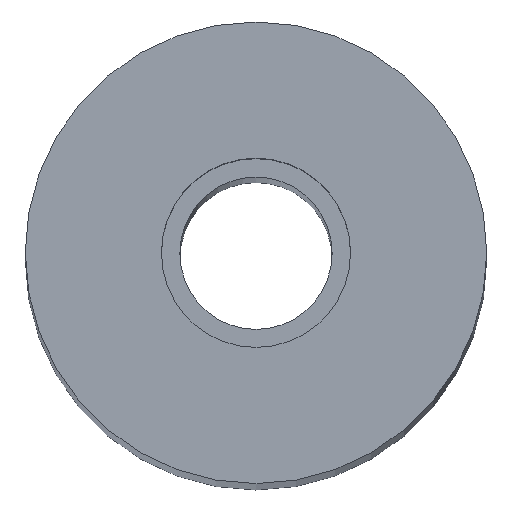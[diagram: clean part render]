
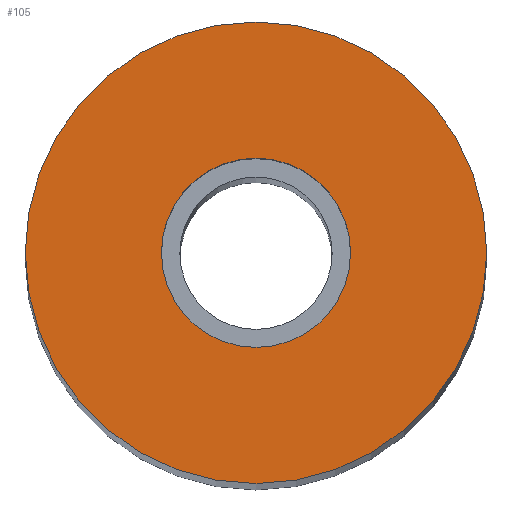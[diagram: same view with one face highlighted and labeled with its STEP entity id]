
A CAD part, top view. The second image highlights one B-rep face of the part: STEP entity #105.
In plain terms, the highlighted planar face has unit normal (0, 0, 1).
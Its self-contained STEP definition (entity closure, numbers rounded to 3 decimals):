
#21 = EDGE_CURVE('',#22,#22,#24,.T.);
#22 = VERTEX_POINT('',#23);
#23 = CARTESIAN_POINT('',(5.,0.,80.));
#24 = SURFACE_CURVE('',#25,(#30,#42),.PCURVE_S1.);
#25 = CIRCLE('',#26,5.);
#26 = AXIS2_PLACEMENT_3D('',#27,#28,#29);
#27 = CARTESIAN_POINT('',(0.,0.,80.));
#28 = DIRECTION('',(0.,0.,1.));
#29 = DIRECTION('',(1.,0.,-0.));
#30 = PCURVE('',#31,#36);
#31 = CYLINDRICAL_SURFACE('',#32,5.);
#32 = AXIS2_PLACEMENT_3D('',#33,#34,#35);
#33 = CARTESIAN_POINT('',(0.,0.,0.));
#34 = DIRECTION('',(0.,0.,1.));
#35 = DIRECTION('',(1.,0.,-0.));
#36 = DEFINITIONAL_REPRESENTATION('',(#37),#41);
#37 = LINE('',#38,#39);
#38 = CARTESIAN_POINT('',(0.,80.));
#39 = VECTOR('',#40,1.);
#40 = DIRECTION('',(1.,0.));
#41 = ( GEOMETRIC_REPRESENTATION_CONTEXT(2) 
PARAMETRIC_REPRESENTATION_CONTEXT() REPRESENTATION_CONTEXT('2D SPACE',''
  ) );
#42 = PCURVE('',#43,#48);
#43 = PLANE('',#44);
#44 = AXIS2_PLACEMENT_3D('',#45,#46,#47);
#45 = CARTESIAN_POINT('',(0.,0.,80.));
#46 = DIRECTION('',(0.,0.,1.));
#47 = DIRECTION('',(1.,0.,-0.));
#48 = DEFINITIONAL_REPRESENTATION('',(#49),#53);
#49 = CIRCLE('',#50,5.);
#50 = AXIS2_PLACEMENT_2D('',#51,#52);
#51 = CARTESIAN_POINT('',(0.,0.));
#52 = DIRECTION('',(1.,0.));
#53 = ( GEOMETRIC_REPRESENTATION_CONTEXT(2) 
PARAMETRIC_REPRESENTATION_CONTEXT() REPRESENTATION_CONTEXT('2D SPACE',''
  ) );
#105 = ADVANCED_FACE('',(#106,#109),#43,.T.);
#106 = FACE_BOUND('',#107,.T.);
#107 = EDGE_LOOP('',(#108));
#108 = ORIENTED_EDGE('',*,*,#21,.T.);
#109 = FACE_BOUND('',#110,.T.);
#110 = EDGE_LOOP('',(#111));
#111 = ORIENTED_EDGE('',*,*,#112,.F.);
#112 = EDGE_CURVE('',#113,#113,#115,.T.);
#113 = VERTEX_POINT('',#114);
#114 = CARTESIAN_POINT('',(2.05,0.,80.));
#115 = SURFACE_CURVE('',#116,(#121,#128),.PCURVE_S1.);
#116 = CIRCLE('',#117,2.05);
#117 = AXIS2_PLACEMENT_3D('',#118,#119,#120);
#118 = CARTESIAN_POINT('',(0.,0.,80.));
#119 = DIRECTION('',(0.,0.,1.));
#120 = DIRECTION('',(1.,0.,-0.));
#121 = PCURVE('',#43,#122);
#122 = DEFINITIONAL_REPRESENTATION('',(#123),#127);
#123 = CIRCLE('',#124,2.05);
#124 = AXIS2_PLACEMENT_2D('',#125,#126);
#125 = CARTESIAN_POINT('',(0.,0.));
#126 = DIRECTION('',(1.,0.));
#127 = ( GEOMETRIC_REPRESENTATION_CONTEXT(2) 
PARAMETRIC_REPRESENTATION_CONTEXT() REPRESENTATION_CONTEXT('2D SPACE',''
  ) );
#128 = PCURVE('',#129,#134);
#129 = CYLINDRICAL_SURFACE('',#130,2.05);
#130 = AXIS2_PLACEMENT_3D('',#131,#132,#133);
#131 = CARTESIAN_POINT('',(0.,0.,74.));
#132 = DIRECTION('',(0.,0.,1.));
#133 = DIRECTION('',(1.,0.,-0.));
#134 = DEFINITIONAL_REPRESENTATION('',(#135),#139);
#135 = LINE('',#136,#137);
#136 = CARTESIAN_POINT('',(0.,6.));
#137 = VECTOR('',#138,1.);
#138 = DIRECTION('',(1.,0.));
#139 = ( GEOMETRIC_REPRESENTATION_CONTEXT(2) 
PARAMETRIC_REPRESENTATION_CONTEXT() REPRESENTATION_CONTEXT('2D SPACE',''
  ) );
